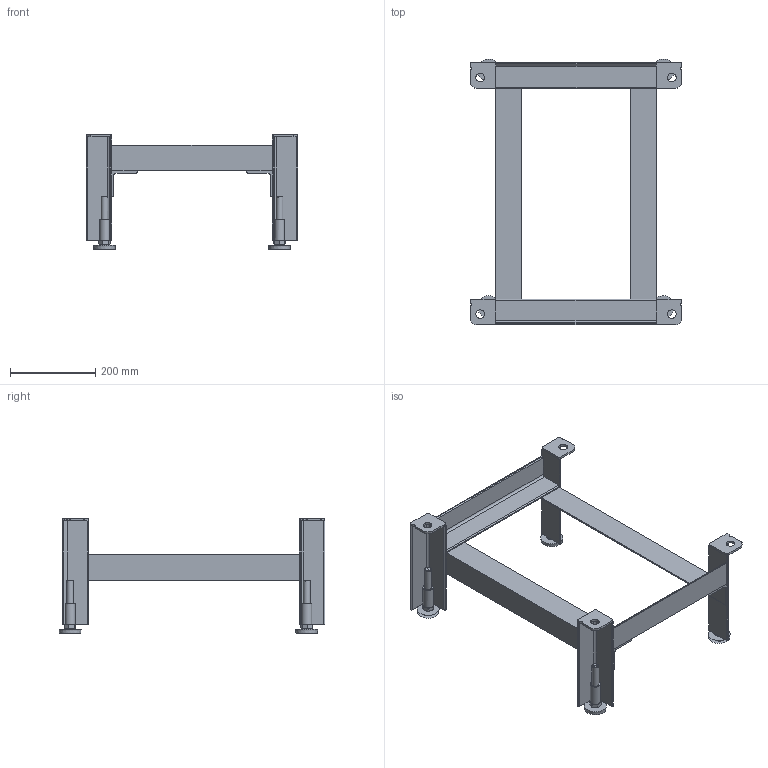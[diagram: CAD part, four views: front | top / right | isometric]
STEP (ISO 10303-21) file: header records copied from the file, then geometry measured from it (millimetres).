
FILE_DESCRIPTION(/* description */ (''),/* implementation_level */ '2;1');
FILE_NAME(/* name */ 'C:\ADSK_DM_WS\CAD_3D\03 Geraete\RIII 45x56x60\Zeichnungen\Traggestell.stp',/* time_stamp */ '2021-11-25T08:58:14+01:00',/* author */ ('CPI'),/* organization */ (''),/* preprocessor_version */ 'ST-DEVELOPER v18.1',/* originating_system */ 'Autodesk Inventor 2022',/* authorisation */ '');
FILE_SCHEMA (('AUTOMOTIVE_DESIGN { 1 0 10303 214 3 1 1 }'));
Length unit declared in the file: millimetre
Products named in the file (1): 2021-03521
Bounding box: 497 x 624.73 x 269 mm (x, y, z)
Volume: 2002430.3 mm3; surface area: 735185.7 mm2
Topology: 1 solids, 1 shells, 371 faces, 969 edges, 609 vertices
Faces by surface type: plane 203, cylinder 104, cone 64
Full cylindrical faces by diameter (mm): 16 x4, 17 x4, 20.5 x4, 30 x4
Entity records: 11868 total; most frequent: CARTESIAN_POINT 2614, ORIENTED_EDGE 1954, DIRECTION 1859, EDGE_CURVE 977, AXIS2_PLACEMENT_3D 670, VERTEX_POINT 609, LINE 519, VECTOR 519
